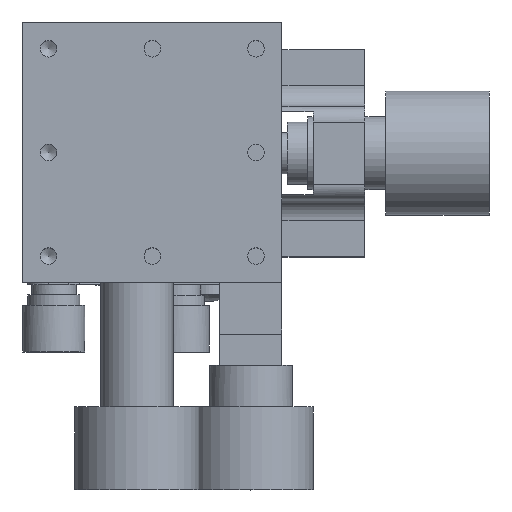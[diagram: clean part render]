
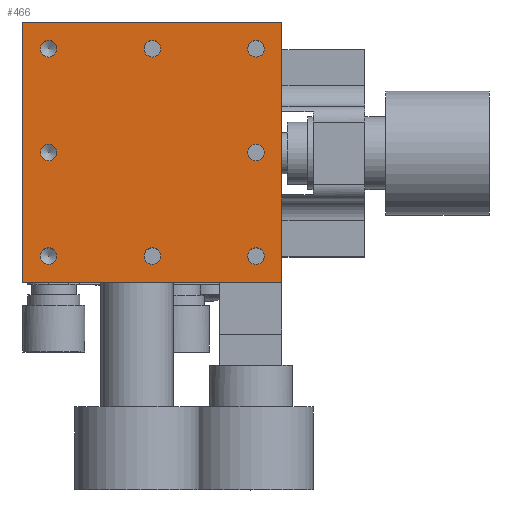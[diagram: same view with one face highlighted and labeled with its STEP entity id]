
A CAD part, top view. The second image highlights one B-rep face of the part: STEP entity #466.
In plain terms, the highlighted planar face has unit normal (0, 0, 1).
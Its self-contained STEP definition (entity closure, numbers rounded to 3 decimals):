
#466 = ADVANCED_FACE( '', ( #1082, #1083, #1084, #1085, #1086, #1087, #1088, #1089, #1090 ), #1091, .F. );
#1082 = FACE_BOUND( '', #1875, .T. );
#1083 = FACE_BOUND( '', #1876, .T. );
#1084 = FACE_BOUND( '', #1877, .T. );
#1085 = FACE_BOUND( '', #1878, .T. );
#1086 = FACE_BOUND( '', #1879, .T. );
#1087 = FACE_BOUND( '', #1880, .T. );
#1088 = FACE_BOUND( '', #1881, .T. );
#1089 = FACE_BOUND( '', #1882, .T. );
#1090 = FACE_OUTER_BOUND( '', #1883, .T. );
#1091 = PLANE( '', #1884 );
#1875 = EDGE_LOOP( '', ( #3529 ) );
#1876 = EDGE_LOOP( '', ( #3530 ) );
#1877 = EDGE_LOOP( '', ( #3531 ) );
#1878 = EDGE_LOOP( '', ( #3532 ) );
#1879 = EDGE_LOOP( '', ( #3533 ) );
#1880 = EDGE_LOOP( '', ( #3534 ) );
#1881 = EDGE_LOOP( '', ( #3535 ) );
#1882 = EDGE_LOOP( '', ( #3536 ) );
#1883 = EDGE_LOOP( '', ( #3537, #3538, #3539, #3540 ) );
#1884 = AXIS2_PLACEMENT_3D( '', #3541, #3542, #3543 );
#3529 = ORIENTED_EDGE( '', *, *, #4753, .T. );
#3530 = ORIENTED_EDGE( '', *, *, #4757, .T. );
#3531 = ORIENTED_EDGE( '', *, *, #4759, .T. );
#3532 = ORIENTED_EDGE( '', *, *, #4761, .T. );
#3533 = ORIENTED_EDGE( '', *, *, #4763, .T. );
#3534 = ORIENTED_EDGE( '', *, *, #4765, .T. );
#3535 = ORIENTED_EDGE( '', *, *, #4767, .T. );
#3536 = ORIENTED_EDGE( '', *, *, #4771, .T. );
#3537 = ORIENTED_EDGE( '', *, *, #4773, .F. );
#3538 = ORIENTED_EDGE( '', *, *, #4748, .F. );
#3539 = ORIENTED_EDGE( '', *, *, #4746, .F. );
#3540 = ORIENTED_EDGE( '', *, *, #4721, .F. );
#3541 = CARTESIAN_POINT( '', ( -12.5, -12.5, 50. ) );
#3542 = DIRECTION( '', ( 0., 0., -1. ) );
#3543 = DIRECTION( '', ( -1., 0., 0. ) );
#4721 = EDGE_CURVE( '', #5631, #5633, #5634, .T. );
#4746 = EDGE_CURVE( '', #5633, #5672, #5674, .T. );
#4748 = EDGE_CURVE( '', #5672, #5677, #5678, .T. );
#4753 = EDGE_CURVE( '', #5686, #5686, #5687, .T. );
#4757 = EDGE_CURVE( '', #5692, #5692, #5693, .T. );
#4759 = EDGE_CURVE( '', #5696, #5696, #5697, .T. );
#4761 = EDGE_CURVE( '', #5700, #5700, #5701, .T. );
#4763 = EDGE_CURVE( '', #5704, #5704, #5705, .T. );
#4765 = EDGE_CURVE( '', #5708, #5708, #5709, .T. );
#4767 = EDGE_CURVE( '', #5712, #5712, #5713, .T. );
#4771 = EDGE_CURVE( '', #5718, #5718, #5719, .T. );
#4773 = EDGE_CURVE( '', #5677, #5631, #5721, .T. );
#5631 = VERTEX_POINT( '', #7190 );
#5633 = VERTEX_POINT( '', #7193 );
#5634 = LINE( '', #7194, #7195 );
#5672 = VERTEX_POINT( '', #7248 );
#5674 = LINE( '', #7251, #7252 );
#5677 = VERTEX_POINT( '', #7256 );
#5678 = LINE( '', #7257, #7258 );
#5686 = VERTEX_POINT( '', #7267 );
#5687 = CIRCLE( '', #7268, 0.8 );
#5692 = VERTEX_POINT( '', #7273 );
#5693 = CIRCLE( '', #7274, 0.8 );
#5696 = VERTEX_POINT( '', #7277 );
#5697 = CIRCLE( '', #7278, 0.8 );
#5700 = VERTEX_POINT( '', #7281 );
#5701 = CIRCLE( '', #7282, 0.8 );
#5704 = VERTEX_POINT( '', #7285 );
#5705 = CIRCLE( '', #7286, 0.8 );
#5708 = VERTEX_POINT( '', #7289 );
#5709 = CIRCLE( '', #7290, 0.8 );
#5712 = VERTEX_POINT( '', #7293 );
#5713 = CIRCLE( '', #7294, 0.8 );
#5718 = VERTEX_POINT( '', #7299 );
#5719 = CIRCLE( '', #7300, 0.8 );
#5721 = LINE( '', #7303, #7304 );
#7190 = CARTESIAN_POINT( '', ( 12.5, -12.5, 50. ) );
#7193 = CARTESIAN_POINT( '', ( -12.5, -12.5, 50. ) );
#7194 = CARTESIAN_POINT( '', ( 12.5, -12.5, 50. ) );
#7195 = VECTOR( '', #8591, 1000. );
#7248 = CARTESIAN_POINT( '', ( -12.5, 12.5, 50. ) );
#7251 = CARTESIAN_POINT( '', ( -12.5, -12.5, 50. ) );
#7252 = VECTOR( '', #8629, 1000. );
#7256 = CARTESIAN_POINT( '', ( 12.5, 12.5, 50. ) );
#7257 = CARTESIAN_POINT( '', ( -12.5, 12.5, 50. ) );
#7258 = VECTOR( '', #8631, 1000. );
#7267 = CARTESIAN_POINT( '', ( -9.2, 0., 50. ) );
#7268 = AXIS2_PLACEMENT_3D( '', #8642, #8643, #8644 );
#7273 = CARTESIAN_POINT( '', ( -9.2, 10., 50. ) );
#7274 = AXIS2_PLACEMENT_3D( '', #8651, #8652, #8653 );
#7277 = CARTESIAN_POINT( '', ( 0.8, 10., 50. ) );
#7278 = AXIS2_PLACEMENT_3D( '', #8657, #8658, #8659 );
#7281 = CARTESIAN_POINT( '', ( 10.8, 10., 50. ) );
#7282 = AXIS2_PLACEMENT_3D( '', #8663, #8664, #8665 );
#7285 = CARTESIAN_POINT( '', ( 10.8, 0., 50. ) );
#7286 = AXIS2_PLACEMENT_3D( '', #8669, #8670, #8671 );
#7289 = CARTESIAN_POINT( '', ( 10.8, -10., 50. ) );
#7290 = AXIS2_PLACEMENT_3D( '', #8675, #8676, #8677 );
#7293 = CARTESIAN_POINT( '', ( 0.8, -10., 50. ) );
#7294 = AXIS2_PLACEMENT_3D( '', #8681, #8682, #8683 );
#7299 = CARTESIAN_POINT( '', ( -9.2, -10., 50. ) );
#7300 = AXIS2_PLACEMENT_3D( '', #8690, #8691, #8692 );
#7303 = CARTESIAN_POINT( '', ( 12.5, 12.5, 50. ) );
#7304 = VECTOR( '', #8694, 1000. );
#8591 = DIRECTION( '', ( -1., 0., 0. ) );
#8629 = DIRECTION( '', ( 0., 1., 0. ) );
#8631 = DIRECTION( '', ( 1., 0., 0. ) );
#8642 = CARTESIAN_POINT( '', ( -10., 0., 50. ) );
#8643 = DIRECTION( '', ( 0., 0., -1. ) );
#8644 = DIRECTION( '', ( 1., 0., 0. ) );
#8651 = CARTESIAN_POINT( '', ( -10., 10., 50. ) );
#8652 = DIRECTION( '', ( 0., 0., -1. ) );
#8653 = DIRECTION( '', ( 1., 0., 0. ) );
#8657 = CARTESIAN_POINT( '', ( 0., 10., 50. ) );
#8658 = DIRECTION( '', ( 0., 0., -1. ) );
#8659 = DIRECTION( '', ( 1., 0., 0. ) );
#8663 = CARTESIAN_POINT( '', ( 10., 10., 50. ) );
#8664 = DIRECTION( '', ( 0., 0., -1. ) );
#8665 = DIRECTION( '', ( 1., 0., 0. ) );
#8669 = CARTESIAN_POINT( '', ( 10., 0., 50. ) );
#8670 = DIRECTION( '', ( 0., 0., -1. ) );
#8671 = DIRECTION( '', ( 1., 0., 0. ) );
#8675 = CARTESIAN_POINT( '', ( 10., -10., 50. ) );
#8676 = DIRECTION( '', ( 0., 0., -1. ) );
#8677 = DIRECTION( '', ( 1., 0., 0. ) );
#8681 = CARTESIAN_POINT( '', ( 0., -10., 50. ) );
#8682 = DIRECTION( '', ( 0., 0., -1. ) );
#8683 = DIRECTION( '', ( 1., 0., 0. ) );
#8690 = CARTESIAN_POINT( '', ( -10., -10., 50. ) );
#8691 = DIRECTION( '', ( 0., 0., -1. ) );
#8692 = DIRECTION( '', ( 1., 0., 0. ) );
#8694 = DIRECTION( '', ( 0., -1., 0. ) );
